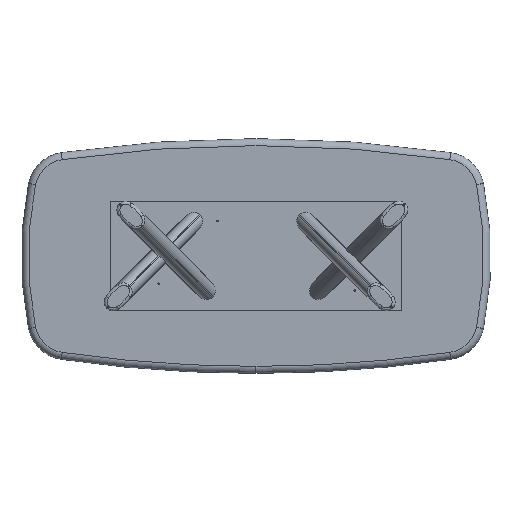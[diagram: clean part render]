
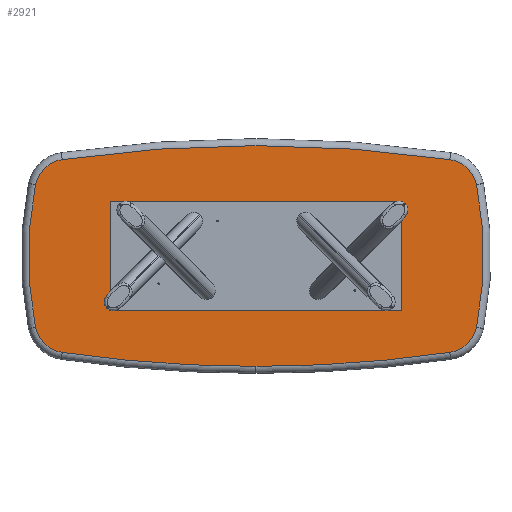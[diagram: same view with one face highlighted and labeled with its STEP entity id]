
A CAD part, front view. The second image highlights one B-rep face of the part: STEP entity #2921.
In plain terms, the highlighted planar face has unit normal (0, -1, 0).
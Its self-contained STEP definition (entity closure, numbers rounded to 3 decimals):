
#111 = ORIENTED_EDGE ( 'NONE', *, *, #4593, .T. ) ;
#186 = VERTEX_POINT ( 'NONE', #1583 ) ;
#220 = PLANE ( 'NONE',  #1980 ) ;
#399 = AXIS2_PLACEMENT_3D ( 'NONE', #3073, #4519, #1251 ) ;
#403 = DIRECTION ( 'NONE',  ( 0., -1., 0. ) ) ;
#416 = ORIENTED_EDGE ( 'NONE', *, *, #1286, .T. ) ;
#422 = CARTESIAN_POINT ( 'NONE',  ( 0., 40., -564. ) ) ;
#432 = DIRECTION ( 'NONE',  ( 0., -1., 0. ) ) ;
#454 = AXIS2_PLACEMENT_3D ( 'NONE', #3676, #458, #1903 ) ;
#458 = DIRECTION ( 'NONE',  ( 0., -1., 0. ) ) ;
#474 = AXIS2_PLACEMENT_3D ( 'NONE', #2326, #1611, #564 ) ;
#481 = CARTESIAN_POINT ( 'NONE',  ( 1127.124, 40., -363.397 ) ) ;
#532 = CIRCLE ( 'NONE', #454, 6914. ) ;
#564 = DIRECTION ( 'NONE',  ( 0., 0., -1. ) ) ;
#610 = CIRCLE ( 'NONE', #1683, 1809. ) ;
#612 = ORIENTED_EDGE ( 'NONE', *, *, #3880, .T. ) ;
#642 = VERTEX_POINT ( 'NONE', #2086 ) ;
#671 = CARTESIAN_POINT ( 'NONE',  ( 966.467, 40., -330.452 ) ) ;
#812 = DIRECTION ( 'NONE',  ( 0., 0., -1. ) ) ;
#901 = VERTEX_POINT ( 'NONE', #933 ) ;
#933 = CARTESIAN_POINT ( 'NONE',  ( 989.949, 40., -492.762 ) ) ;
#1081 = EDGE_CURVE ( 'NONE', #642, #1218, #532, .T. ) ;
#1086 = AXIS2_PLACEMENT_3D ( 'NONE', #4067, #2213, #2666 ) ;
#1111 = EDGE_CURVE ( 'NONE', #2883, #642, #3206, .T. ) ;
#1112 = ORIENTED_EDGE ( 'NONE', *, *, #1111, .T. ) ;
#1121 = DIRECTION ( 'NONE',  ( 0., 0., -1. ) ) ;
#1132 = AXIS2_PLACEMENT_3D ( 'NONE', #2946, #4398, #1121 ) ;
#1214 = AXIS2_PLACEMENT_3D ( 'NONE', #671, #4637, #2082 ) ;
#1218 = VERTEX_POINT ( 'NONE', #1718 ) ;
#1251 = DIRECTION ( 'NONE',  ( 0., 0., -1. ) ) ;
#1286 = EDGE_CURVE ( 'NONE', #1512, #2883, #610, .T. ) ;
#1340 = CARTESIAN_POINT ( 'NONE',  ( -1127.124, 40., -363.397 ) ) ;
#1476 = DIRECTION ( 'NONE',  ( 0., 0., -1. ) ) ;
#1480 = CARTESIAN_POINT ( 'NONE',  ( -645., 40., 0. ) ) ;
#1512 = VERTEX_POINT ( 'NONE', #481 ) ;
#1583 = CARTESIAN_POINT ( 'NONE',  ( -989.949, 40., -492.762 ) ) ;
#1611 = DIRECTION ( 'NONE',  ( 0., -1., 0. ) ) ;
#1678 = CARTESIAN_POINT ( 'NONE',  ( 160.734, 40., -165.226 ) ) ;
#1683 = AXIS2_PLACEMENT_3D ( 'NONE', #1480, #432, #3010 ) ;
#1698 = CIRCLE ( 'NONE', #1086, 6914. ) ;
#1718 = CARTESIAN_POINT ( 'NONE',  ( -989.949, 40., 492.762 ) ) ;
#1800 = VERTEX_POINT ( 'NONE', #2846 ) ;
#1897 = CIRCLE ( 'NONE', #1214, 164. ) ;
#1903 = DIRECTION ( 'NONE',  ( 0., 0., -1. ) ) ;
#1908 = EDGE_LOOP ( 'NONE', ( #1945, #111, #3387, #3042, #416, #1112, #3881, #612, #2697 ) ) ;
#1945 = ORIENTED_EDGE ( 'NONE', *, *, #3876, .T. ) ;
#1975 = CARTESIAN_POINT ( 'NONE',  ( 645., 40., 0. ) ) ;
#1980 = AXIS2_PLACEMENT_3D ( 'NONE', #1678, #3138, #1476 ) ;
#2082 = DIRECTION ( 'NONE',  ( 0., 0., -1. ) ) ;
#2086 = CARTESIAN_POINT ( 'NONE',  ( 989.949, 40., 492.762 ) ) ;
#2213 = DIRECTION ( 'NONE',  ( 0., -1., 0. ) ) ;
#2302 = CIRCLE ( 'NONE', #474, 164. ) ;
#2307 = AXIS2_PLACEMENT_3D ( 'NONE', #2613, #403, #2637 ) ;
#2326 = CARTESIAN_POINT ( 'NONE',  ( -966.467, 40., -330.452 ) ) ;
#2427 = EDGE_CURVE ( 'NONE', #901, #1512, #1897, .T. ) ;
#2460 = CIRCLE ( 'NONE', #2307, 6914. ) ;
#2527 = CARTESIAN_POINT ( 'NONE',  ( 1127.124, 40., 363.397 ) ) ;
#2613 = CARTESIAN_POINT ( 'NONE',  ( 0., 40., 6350. ) ) ;
#2637 = DIRECTION ( 'NONE',  ( 0., 0., -1. ) ) ;
#2666 = DIRECTION ( 'NONE',  ( 0., 0., -1. ) ) ;
#2685 = EDGE_CURVE ( 'NONE', #1800, #4000, #4056, .T. ) ;
#2697 = ORIENTED_EDGE ( 'NONE', *, *, #2685, .T. ) ;
#2755 = DIRECTION ( 'NONE',  ( 0., -1., 0. ) ) ;
#2759 = AXIS2_PLACEMENT_3D ( 'NONE', #1975, #2755, #812 ) ;
#2846 = CARTESIAN_POINT ( 'NONE',  ( -1127.124, 40., 363.397 ) ) ;
#2883 = VERTEX_POINT ( 'NONE', #2527 ) ;
#2921 = ADVANCED_FACE ( 'NONE', ( #3649 ), #220, .T. ) ;
#2946 = CARTESIAN_POINT ( 'NONE',  ( 966.467, 40., 330.452 ) ) ;
#3010 = DIRECTION ( 'NONE',  ( 0., 0., -1. ) ) ;
#3042 = ORIENTED_EDGE ( 'NONE', *, *, #2427, .T. ) ;
#3073 = CARTESIAN_POINT ( 'NONE',  ( -966.467, 40., 330.452 ) ) ;
#3138 = DIRECTION ( 'NONE',  ( 0., -1., 0. ) ) ;
#3206 = CIRCLE ( 'NONE', #1132, 164. ) ;
#3387 = ORIENTED_EDGE ( 'NONE', *, *, #4269, .T. ) ;
#3600 = VERTEX_POINT ( 'NONE', #422 ) ;
#3649 = FACE_OUTER_BOUND ( 'NONE', #1908, .T. ) ;
#3676 = CARTESIAN_POINT ( 'NONE',  ( 0., 40., -6350. ) ) ;
#3876 = EDGE_CURVE ( 'NONE', #4000, #186, #2302, .T. ) ;
#3880 = EDGE_CURVE ( 'NONE', #1218, #1800, #4220, .T. ) ;
#3881 = ORIENTED_EDGE ( 'NONE', *, *, #1081, .T. ) ;
#4000 = VERTEX_POINT ( 'NONE', #1340 ) ;
#4056 = CIRCLE ( 'NONE', #2759, 1809. ) ;
#4067 = CARTESIAN_POINT ( 'NONE',  ( 0., 40., 6350. ) ) ;
#4220 = CIRCLE ( 'NONE', #399, 164. ) ;
#4269 = EDGE_CURVE ( 'NONE', #3600, #901, #1698, .T. ) ;
#4398 = DIRECTION ( 'NONE',  ( 0., -1., 0. ) ) ;
#4519 = DIRECTION ( 'NONE',  ( 0., -1., 0. ) ) ;
#4593 = EDGE_CURVE ( 'NONE', #186, #3600, #2460, .T. ) ;
#4637 = DIRECTION ( 'NONE',  ( 0., -1., 0. ) ) ;
